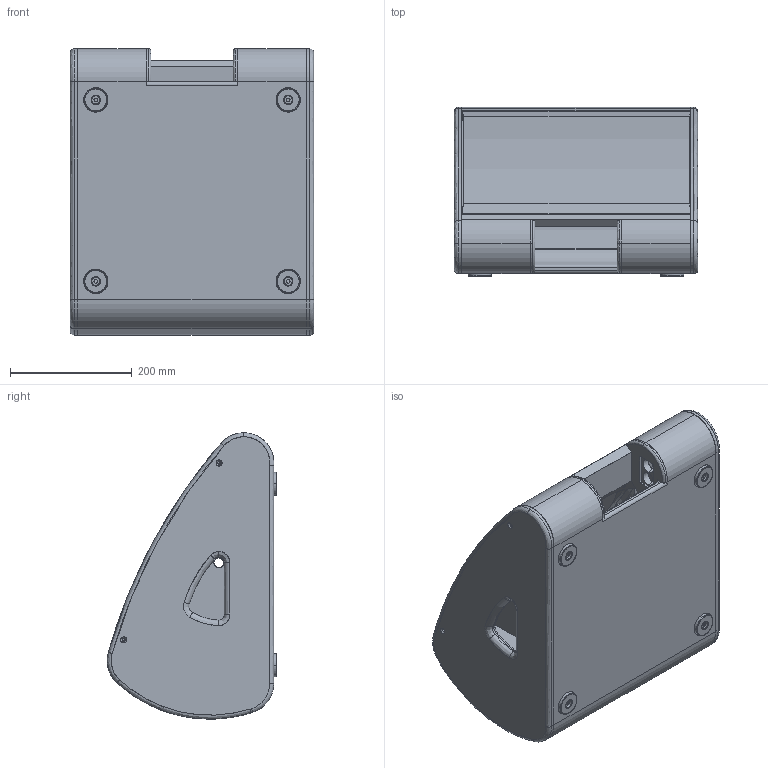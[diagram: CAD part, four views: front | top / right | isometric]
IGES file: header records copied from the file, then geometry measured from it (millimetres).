
Start section: SolidWorks IGES file using analytic representation for surfaces
Global section: file name: C:\Dokumente und Einstellungen\PC_Fabian\Desktop\SW-Konstruktionen Michl2010\M1\Internet\SEEBURG_M1.IGS; native system: SolidWorks 2009; preprocessor: SolidWorks 2009; author: PC_Fabian; date: 120926.130358; units: millimetre
Bounding box: 400 x 278.59 x 470.31 mm (x, y, z)
Surface area: 2211307.7 mm2 (no closed solid volume)
Topology: 0 solids, 0 shells, 485 faces, 7173 edges, 7173 vertices
Faces by surface type: bspline 283, revolution 202
